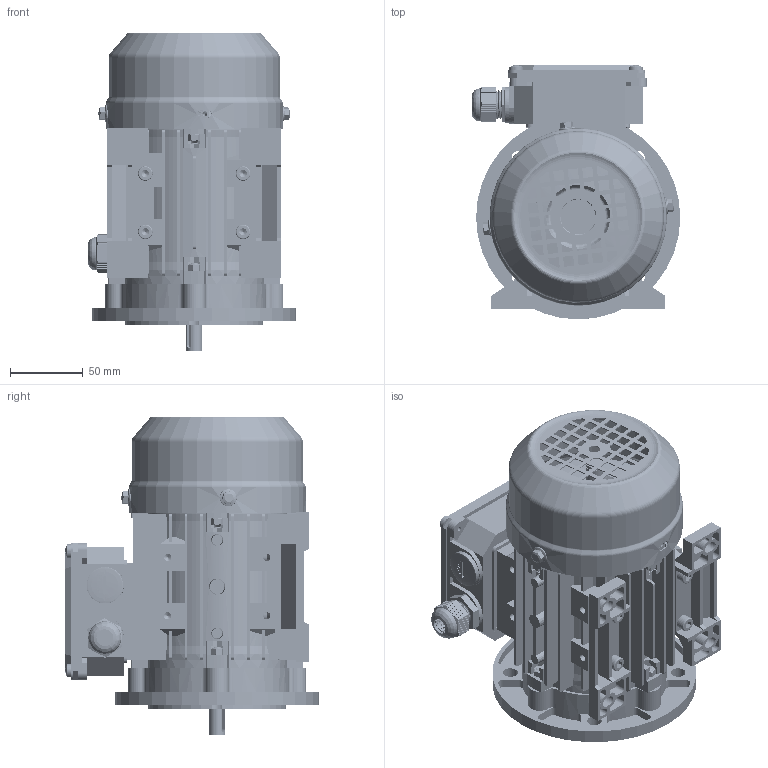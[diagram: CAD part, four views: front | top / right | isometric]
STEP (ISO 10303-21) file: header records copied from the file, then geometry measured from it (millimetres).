
FILE_DESCRIPTION (( 'STEP AP203' ), '1' );
FILE_NAME ('MS-63 B35 3Dͼ.STEP', '2024-08-05T08:51:59', ( 'User' ), ( 'China' ), 'SwSTEP 2.0', 'SolidWorks 2018', '' );
FILE_SCHEMA (( 'CONFIG_CONTROL_DESIGN' ));
Length unit declared in the file: millimetre
Products named in the file (20): hex nuts, style 1-grades ab gb_GB_FASTENER_NUT_SNAB1 M5-S; 蚐猾24X12X5; spring lock washers--normal type gb_GB_FASTENER_WASHER_SW 5; MS-63 菁褐; hexagon socket head cap screws gb_GB_FASTENER_SCREWS_HSHCS M6X20-S; MS63-71諉盄碟菁釱; MS63 邧脯瑞欶; MS63-71諉盄碟裔; hex flange bolts-heavy grade b gb_GB_FASTENER_BOLT_HFBB M5X10-S; 蹟杶郋M20X1.5; MS63 儂褲; cross recessed pan head screws gb_GB_CROSS_SCREWS_TYPE1 M5X6-6  H type-S; 蹟簸M20X1.5; MS63 B3綴裔; MS63 B5ヶ裔; 黑芛20X1.5; deep groove ball bearings gb_Rolling bearings 6201 GB 276-94; MS-63 B35  3Dͼ; hexagon socket head cap screws gb_GB_FASTENER_SCREWS_HSHCS M5X25-S; MS63 蛌粣
Assembly tree (46 placements, depth 2):
  MS-63 B35  3Dͼ
    MS63 儂褲
    MS63 B3綴裔
    deep groove ball bearings gb_Rolling bearings 6201 GB 276-94  x2
    MS63 蛌粣
    蚐猾24X12X5  x2
    MS-63 菁褐  x2
    MS63-71諉盄碟菁釱
    MS63-71諉盄碟裔
    蹟杶郋M20X1.5
    蹟簸M20X1.5
    黑芛20X1.5
    hexagon socket head cap screws gb_GB_FASTENER_SCREWS_HSHCS M5X25-S  x8
    hex nuts, style 1-grades ab gb_GB_FASTENER_NUT_SNAB1 M5-S  x7
    spring lock washers--normal type gb_GB_FASTENER_WASHER_SW 5  x4
    hexagon socket head cap screws gb_GB_FASTENER_SCREWS_HSHCS M6X20-S  x4
    MS63 邧脯瑞欶
    hex flange bolts-heavy grade b gb_GB_FASTENER_BOLT_HFBB M5X10-S  x3
    cross recessed pan head screws gb_GB_CROSS_SCREWS_TYPE1 M5X6-6  H type-S  x4
    MS63 B5ヶ裔
Bounding box: 143.02 x 174.5 x 218.64 mm (x, y, z)
Volume: 574987.9 mm3; surface area: 429854.9 mm2
Topology: 49 solids, 49 shells, 7859 faces, 18797 edges, 11021 vertices
Faces by surface type: cone 2983, plane 2235, cylinder 2203, torus 212, bspline 170, sphere 56
Entity records: 143495 total; most frequent: CARTESIAN_POINT 46668, ORIENTED_EDGE 20448, DIRECTION 18545, EDGE_CURVE 10224, VERTEX_POINT 6481, AXIS2_PLACEMENT_3D 6442, VECTOR 5661, LINE 5661
